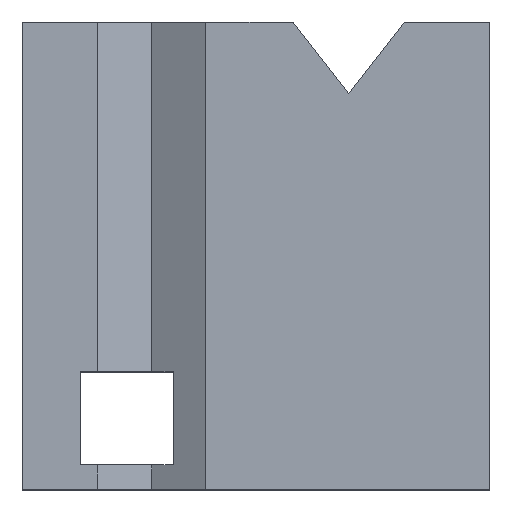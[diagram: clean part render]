
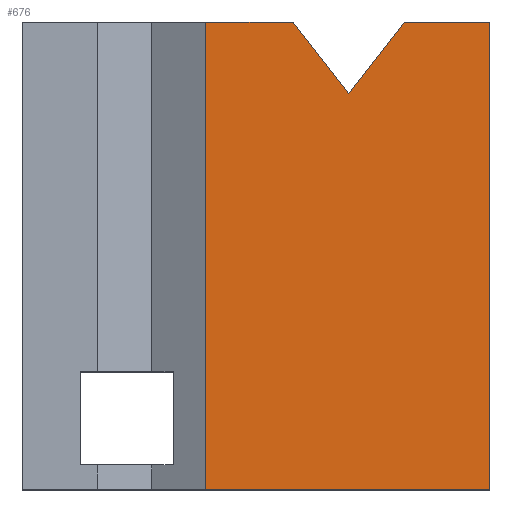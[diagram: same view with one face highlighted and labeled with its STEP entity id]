
A CAD part, top view. The second image highlights one B-rep face of the part: STEP entity #676.
In plain terms, the highlighted planar face has unit normal (0, 0, 1).
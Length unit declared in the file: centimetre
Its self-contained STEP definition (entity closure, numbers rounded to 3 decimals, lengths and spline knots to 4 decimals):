
#38 = CARTESIAN_POINT ( 'NONE',  ( 698.4659, 846.2365, 1000. ) ) ;
#44 = LINE ( 'NONE', #290, #2173 ) ;
#68 = DIRECTION ( 'NONE',  ( 1., 0., 0. ) ) ;
#70 = CARTESIAN_POINT ( 'NONE',  ( 392.6224, 1000., 1000. ) ) ;
#85 = VECTOR ( 'NONE', #796, 100. ) ;
#290 = CARTESIAN_POINT ( 'NONE',  ( 1000., 1000., 1000. ) ) ;
#364 = VECTOR ( 'NONE', #429, 100. ) ;
#378 = CARTESIAN_POINT ( 'NONE',  ( 0., 1000., 1000. ) ) ;
#385 = LINE ( 'NONE', #1657, #364 ) ;
#392 = LINE ( 'NONE', #378, #85 ) ;
#428 = LINE ( 'NONE', #1501, #2460 ) ;
#429 = DIRECTION ( 'NONE',  ( -1., 0., 0. ) ) ;
#444 = VECTOR ( 'NONE', #1144, 100. ) ;
#495 = VECTOR ( 'NONE', #2231, 100. ) ;
#550 = EDGE_CURVE ( 'NONE', #2260, #2668, #2479, .T. ) ;
#676 = ADVANCED_FACE ( 'NONE', ( #2604 ), #2184, .T. ) ;
#714 = EDGE_CURVE ( 'NONE', #1779, #1754, #44, .T. ) ;
#752 = LINE ( 'NONE', #2388, #444 ) ;
#796 = DIRECTION ( 'NONE',  ( -1., 0., 0. ) ) ;
#797 = EDGE_LOOP ( 'NONE', ( #1859, #1050, #1428, #1743, #2143, #939, #1432 ) ) ;
#841 = VERTEX_POINT ( 'NONE', #2228 ) ;
#873 = CARTESIAN_POINT ( 'NONE',  ( 1000., 1000., 1000. ) ) ;
#903 = DIRECTION ( 'NONE',  ( 0., 1., 0. ) ) ;
#939 = ORIENTED_EDGE ( 'NONE', *, *, #1366, .F. ) ;
#966 = EDGE_CURVE ( 'NONE', #841, #2676, #385, .T. ) ;
#1050 = ORIENTED_EDGE ( 'NONE', *, *, #1802, .T. ) ;
#1106 = CARTESIAN_POINT ( 'NONE',  ( 0., 0., 1000. ) ) ;
#1144 = DIRECTION ( 'NONE',  ( 0., -1., 0. ) ) ;
#1277 = DIRECTION ( 'NONE',  ( 0.612, 0.791, 0. ) ) ;
#1366 = EDGE_CURVE ( 'NONE', #841, #2260, #1782, .T. ) ;
#1428 = ORIENTED_EDGE ( 'NONE', *, *, #714, .T. ) ;
#1432 = ORIENTED_EDGE ( 'NONE', *, *, #966, .T. ) ;
#1474 = CARTESIAN_POINT ( 'NONE',  ( 392.6224, 0., 1000. ) ) ;
#1492 = CARTESIAN_POINT ( 'NONE',  ( 698.4659, 846.2365, 1000. ) ) ;
#1501 = CARTESIAN_POINT ( 'NONE',  ( 0., 0., 1000. ) ) ;
#1644 = CARTESIAN_POINT ( 'NONE',  ( 817.3804, 1000., 1000. ) ) ;
#1657 = CARTESIAN_POINT ( 'NONE',  ( 0., 1000., 1000. ) ) ;
#1697 = CARTESIAN_POINT ( 'NONE',  ( 1000., 0., 1000. ) ) ;
#1743 = ORIENTED_EDGE ( 'NONE', *, *, #2095, .T. ) ;
#1752 = DIRECTION ( 'NONE',  ( 0., 0., 1. ) ) ;
#1754 = VERTEX_POINT ( 'NONE', #873 ) ;
#1779 = VERTEX_POINT ( 'NONE', #1697 ) ;
#1782 = LINE ( 'NONE', #1813, #495 ) ;
#1802 = EDGE_CURVE ( 'NONE', #2542, #1779, #428, .T. ) ;
#1813 = CARTESIAN_POINT ( 'NONE',  ( 579.5515, 1000., 1000. ) ) ;
#1859 = ORIENTED_EDGE ( 'NONE', *, *, #1932, .T. ) ;
#1866 = VECTOR ( 'NONE', #1277, 100. ) ;
#1932 = EDGE_CURVE ( 'NONE', #2676, #2542, #752, .T. ) ;
#2095 = EDGE_CURVE ( 'NONE', #1754, #2668, #392, .T. ) ;
#2143 = ORIENTED_EDGE ( 'NONE', *, *, #550, .F. ) ;
#2173 = VECTOR ( 'NONE', #903, 100. ) ;
#2184 = PLANE ( 'NONE',  #2669 ) ;
#2228 = CARTESIAN_POINT ( 'NONE',  ( 579.5515, 1000., 1000. ) ) ;
#2231 = DIRECTION ( 'NONE',  ( 0.612, -0.791, 0. ) ) ;
#2260 = VERTEX_POINT ( 'NONE', #38 ) ;
#2388 = CARTESIAN_POINT ( 'NONE',  ( 392.6224, 1000., 1000. ) ) ;
#2391 = DIRECTION ( 'NONE',  ( 1., 0., 0. ) ) ;
#2460 = VECTOR ( 'NONE', #68, 100. ) ;
#2479 = LINE ( 'NONE', #1492, #1866 ) ;
#2542 = VERTEX_POINT ( 'NONE', #1474 ) ;
#2604 = FACE_OUTER_BOUND ( 'NONE', #797, .T. ) ;
#2668 = VERTEX_POINT ( 'NONE', #1644 ) ;
#2669 = AXIS2_PLACEMENT_3D ( 'NONE', #1106, #1752, #2391 ) ;
#2676 = VERTEX_POINT ( 'NONE', #70 ) ;
